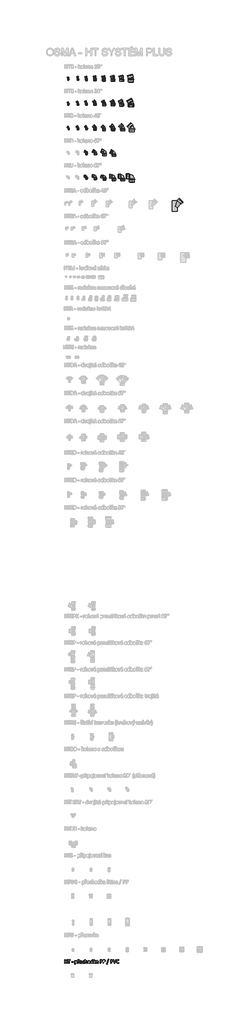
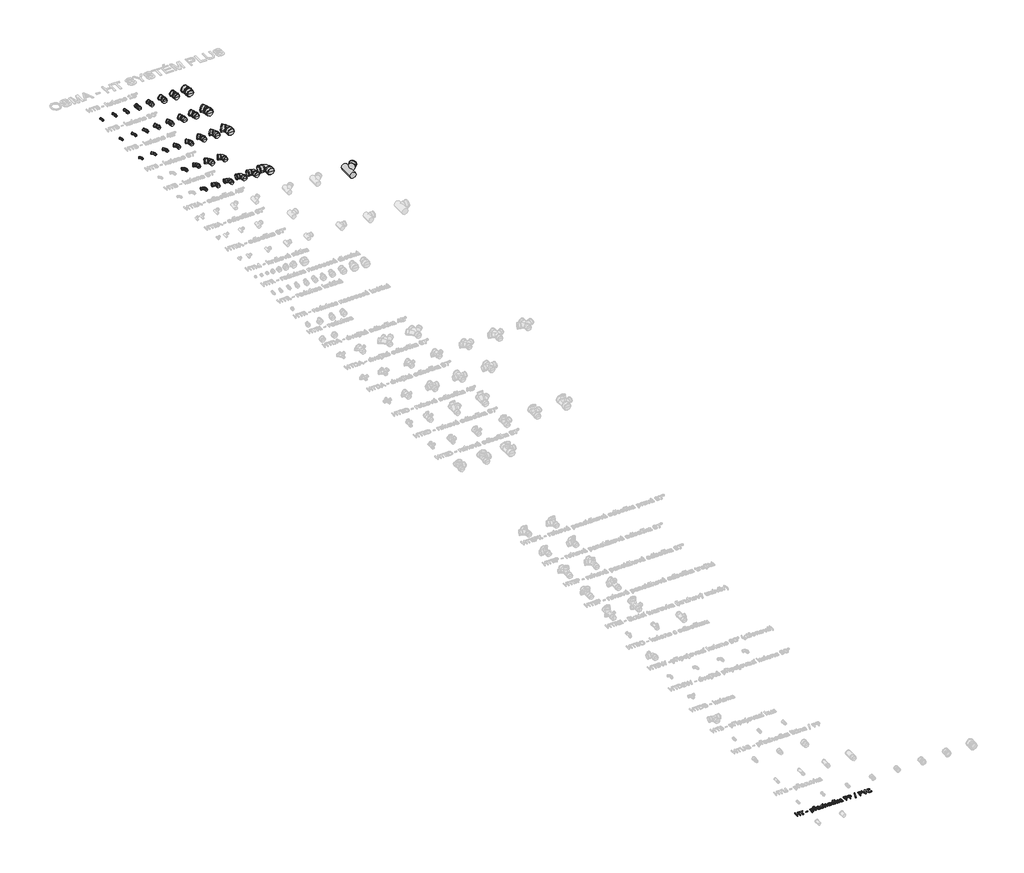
# One storey, part 2 of 26: 35 pipe fittings, 1 proxy.
"""IFC4 building model written with IfcOpenShell, lengths in millimetres."""

from ifc_helpers import new_model, si_unit, origin, origin_with_axes, place, context, project, spatial, polyline, outline, extrude, transform, mapped, element, save
from components import pipe_fitting_42979814, pipe_fitting_5d18f4c1, pipe_fitting_34a3104b, pipe_fitting_7d523068, pipe_fitting_6a555fdf, pipe_fitting_a0c841f7, pipe_fitting_a6e2fb77, pipe_fitting_8c246949, pipe_fitting_7228f4b3, pipe_fitting_5e5e72fc, pipe_fitting_70bf791d, pipe_fitting_b5d70c9b, pipe_fitting_7da3bcd4, pipe_fitting_90b3138e, pipe_fitting_d9a1dc68, pipe_fitting_e6752ab2, pipe_fitting_b959d5ee, pipe_fitting_9d65ed2c, pipe_fitting_ae09612a, pipe_fitting_d9e671e8, pipe_fitting_061adc0d, pipe_fitting_39f5aeaa, pipe_fitting_7f82ed09, pipe_fitting_ec7f6db3, pipe_fitting_69d4b52c, pipe_fitting_f9c090b8, pipe_fitting_05bbf92f, pipe_fitting_35e958b2, pipe_fitting_1962d81d, pipe_fitting_fdcfc480, pipe_fitting_d87b3533, pipe_fitting_35804287, pipe_fitting_c4cf05fe, pipe_fitting_eeb25b69

model = new_model("IFC4")

# Units and contexts
model_context = context("Model", 3, world=origin())
ifc_project = project(units=[si_unit("LENGTHUNIT", "METRE", prefix="MILLI")], contexts=[model_context])

# Site, building, storey
site = spatial("IfcSite", under=ifc_project)
building = spatial("IfcBuilding", under=site)
storey = spatial("IfcBuildingStorey", under=building, Name="Podlaží 1", Elevation=0.0)

# Proxy
placement = place(None, origin())
element("IfcBuildingElementProxy", 1, Name="120mm Arial", ObjectType="120mm Arial", at=placement, inside=storey, context=model_context, shape_type="SweptSolid", body=[
    extrude(outline(polyline([(-20465.0657483, -8501.9493003), (-20469.2817655, -8504.6815689), (-20473.1358927, -8504.9167974), (-20477.1166815, -8504.6815689), (-20479.5775327, -8504.1387341), (-20481.2784151, -8449.3305111), (-20534.5486061, -8449.3305111), (-20534.5486061, -8501.9854893), (-20538.7465288, -8504.6815689), (-20542.6549395, -8504.9167974), (-20546.5271613, -8504.6815689), (-20549.0603905, -8504.1206396), (-20550.7612729, -8387.4473409), (-20546.5271613, -8384.7150723), (-20542.6549395, -8384.4798438), (-20538.7465288, -8384.7150723), (-20536.2494886, -8385.2760016), (-20534.5486061, -8435.4339396), (-20481.2784151, -8435.4339396), (-20481.2784151, -8387.4473409), (-20477.1166815, -8384.7150723), (-20473.1358927, -8384.4798438), (-20469.2817655, -8384.7150723), (-20466.7666308, -8385.2760016), (-20465.0657483, -8501.9493003)])), origin_with_axes(), (0.0, 0.0, 1.0), 15.0),
    extrude(outline(polyline([(-20356.2092711, -8391.5366966), (-20356.390216, -8394.6670441), (-20356.9873343, -8396.8021944), (-20393.2667952, -8398.3764154), (-20393.2667952, -8501.9493003), (-20397.4647179, -8504.6815689), (-20401.3731287, -8504.9167974), (-20405.2453504, -8504.6815689), (-20407.7785796, -8504.1206396), (-20409.4794621, -8398.3764154), (-20443.3885442, -8398.3764154), (-20446.3017578, -8394.6670441), (-20446.5369862, -8391.5366966), (-20446.3017578, -8388.3339711), (-20445.686545, -8386.0902538), (-20359.3939021, -8384.4798438), (-20357.0054288, -8386.0902538), (-20356.390216, -8388.3339711), (-20356.2092711, -8391.5366966)])), origin_with_axes(), (0.0, 0.0, 1.0), 15.0),
    extrude(outline(polyline([(-20258.9332702, -8459.7167508), (-20259.7837114, -8464.2765633), (-20262.2626571, -8465.5431779), (-20301.8534105, -8465.5431779), (-20304.4047341, -8464.2403744), (-20305.2551754, -8459.7167508), (-20304.4047341, -8455.2293162), (-20301.8534105, -8453.9627016), (-20262.2626571, -8453.9627016), (-20259.1684986, -8457.0025767), (-20258.9332702, -8459.7167508)])), origin_with_axes(), (0.0, 0.0, 1.0), 15.0),
    extrude(outline(polyline([(-20119.9675546, -8459.6443728), (-20122.2836498, -8479.494033), (-20129.0871796, -8494.4400852), (-20140.2152936, -8503.9035057), (-20155.3965742, -8507.2328926), (-20162.1096316, -8506.4910184), (-20168.1531927, -8504.1387341), (-20174.0158088, -8500.1036619), (-20180.1860313, -8494.3858017), (-20180.1860313, -8536.6545402), (-20181.8688193, -8538.916352), (-20184.311576, -8539.4772813), (-20188.3285537, -8539.6582263), (-20192.2731535, -8539.4772813), (-20194.7701937, -8538.916352), (-20196.0549028, -8537.9754383), (-20196.0549028, -8419.8002966), (-20192.6712323, -8417.0499334), (-20189.3056564, -8416.9051775), (-20185.921986, -8417.0318389), (-20183.7144577, -8417.5022958), (-20182.1402367, -8430.1503473), (-20174.9567225, -8423.3106284), (-20167.9903422, -8418.4793985), (-20160.7887335, -8415.5661849), (-20153.008101, -8414.5890822), (-20137.8087259, -8418.1536976), (-20127.5672421, -8427.8885355), (-20121.7950985, -8442.2555639), (-20119.9675546, -8459.6443728)]), holes=[polyline([(-20136.1802214, -8461.4176333), (-20137.1211351, -8449.1495662), (-20140.3600495, -8438.6185705), (-20146.5302721, -8431.2541114), (-20156.156543, -8428.4856538), (-20161.8382142, -8429.336095), (-20167.5017909, -8432.0502691), (-20173.5272575, -8436.9357826), (-20180.1860313, -8444.3726197), (-20180.1860313, -8477.919812), (-20168.5874605, -8489.3736268), (-20157.0612677, -8493.3363211), (-20147.4711858, -8490.5678634), (-20140.9933568, -8483.2034043), (-20137.3563635, -8472.9076371), (-20136.1802214, -8461.4176333)])]), origin_with_axes(), (0.0, 0.0, 1.0), 15.0),
    extrude(outline(polyline([(-20060.9071254, -8377.8934479), (-20059.7490778, -8376.6087389), (-20056.4558799, -8375.3421243), (-20053.5607608, -8375.2154628), (-20049.7790115, -8375.5230692), (-20047.9695621, -8376.4096994), (-20049.3266491, -8380.2095432), (-20064.2727014, -8400.6925107), (-20065.4488435, -8401.8505583), (-20067.041159, -8402.5200546), (-20069.3572542, -8402.8819445), (-20072.7047357, -8403.0086059), (-20075.8531777, -8402.8819445), (-20078.0788004, -8402.4838656), (-20079.6168325, -8401.7600858), (-20095.6485543, -8380.2095432), (-20097.0418304, -8377.9839204), (-20095.1419085, -8375.5230692), (-20091.3782537, -8375.2154628), (-20088.2660007, -8375.3421243), (-20086.3841733, -8375.7944866), (-20084.068078, -8377.8934479), (-20072.4876017, -8394.0699258), (-20060.9071254, -8377.8934479)])), origin_with_axes(), (0.0, 0.0, 1.0), 15.0),
    extrude(outline(polyline([(-20048.1686015, -8423.8534633), (-20048.259074, -8427.1466612), (-20048.6209639, -8429.2818115), (-20052.1674847, -8430.4941426), (-20054.5016745, -8429.6617959), (-20057.414888, -8428.8656382), (-20060.9071254, -8428.4856538), (-20065.322182, -8429.480851), (-20069.8639001, -8432.7378599), (-20074.839886, -8438.745232), (-20080.5939351, -8447.9191406), (-20080.5939351, -8502.0940563), (-20084.7194798, -8504.7358524), (-20088.7364575, -8504.9167974), (-20092.6810573, -8504.7358524), (-20095.1780975, -8504.1930176), (-20096.806602, -8419.7279186), (-20093.0791362, -8417.0499334), (-20089.4240483, -8416.9051775), (-20085.8413385, -8417.0499334), (-20083.6338102, -8417.5927683), (-20082.1500616, -8431.7426627), (-20075.8893666, -8423.1658725), (-20070.3343569, -8417.9365637), (-20065.1593316, -8415.312862), (-20059.9662117, -8414.5890822), (-20057.3244156, -8414.7157437), (-20054.2121626, -8415.204295), (-20051.2808545, -8416.0185473), (-20049.4352161, -8416.9051775), (-20048.2047905, -8420.5964543), (-20048.1686015, -8423.8534633)])), origin_with_axes(), (0.0, 0.0, 1.0), 15.0),
    extrude(outline(polyline([(-19957.8408864, -8456.6044978), (-19959.6322413, -8461.7071452), (-19963.7396915, -8463.2270827), (-20018.0593631, -8463.2270827), (-20016.7022761, -8476.6170084), (-20012.196747, -8486.8223031), (-20003.9818466, -8493.3725101), (-19991.6052126, -8495.6524163), (-19981.3275399, -8494.5848412), (-19973.5107184, -8492.1782734), (-19968.1004646, -8489.7717057), (-19964.8977391, -8488.7041305), (-19962.5997383, -8491.5992496), (-19962.4730769, -8494.2410458), (-19962.5635494, -8496.1771567), (-19967.0147949, -8501.5693159), (-19973.3659624, -8504.0663561), (-19982.4132095, -8506.2557899), (-19993.378473, -8507.2328926), (-20011.0567939, -8504.3377735), (-20023.8134123, -8495.7247943), (-20031.6302338, -8481.3758604), (-20034.2720299, -8461.3452553), (-20031.5035723, -8441.8032015), (-20023.5239004, -8427.1104722), (-20010.9301324, -8417.8279967), (-19994.3917647, -8414.5890822), (-19977.74483, -8417.7194297), (-19966.4357711, -8426.151464), (-19959.9217532, -8438.5823816), (-19957.8408864, -8453.8179457), (-19957.8408864, -8456.6044978)]), holes=[polyline([(-19974.0535532, -8451.6466064), (-19975.2251717, -8441.0206147), (-19979.246673, -8432.9549939), (-19986.0185375, -8427.8659174), (-19995.4412453, -8426.1695585), (-20005.0856108, -8428.2685199), (-20012.0158021, -8433.8597186), (-20016.3403862, -8441.9841465), (-20018.0593631, -8451.6466064), (-19974.0535532, -8451.6466064)])]), origin_with_axes(), (0.0, 0.0, 1.0), 15.0),
    extrude(outline(polyline([(-19874.461457, -8488.2698627), (-19874.5519295, -8490.8030919), (-19874.8776304, -8492.6125413), (-19876.8680247, -8496.2495346), (-19880.758341, -8499.777961), (-19886.9285635, -8503.5235213), (-19894.3654006, -8506.2015065), (-19902.688868, -8507.2328926), (-19918.394889, -8504.2292066), (-19929.8487038, -8495.4533769), (-19936.8874621, -8481.3034824), (-19939.3121243, -8461.9604681), (-19936.3446272, -8440.5184924), (-19928.2201993, -8425.8438576), (-19916.0787937, -8417.3575398), (-19900.9517965, -8414.5890822), (-19893.31592, -8415.4033345), (-19886.5123902, -8417.5384848), (-19880.9754749, -8420.5783598), (-19877.465143, -8423.5277624), (-19875.9633, -8425.4638733), (-19875.2757092, -8427.0019053), (-19874.9138194, -8428.9018272), (-19874.8233469, -8431.5617178), (-19875.6375991, -8436.3748533), (-19877.609899, -8437.7500348), (-19880.7402465, -8436.3024753), (-19885.2095866, -8433.1178443), (-19891.777888, -8429.9332133), (-19900.8432296, -8428.4856538), (-19910.3654572, -8430.5846151), (-19917.3635028, -8436.8814991), (-19921.6654688, -8447.1772663), (-19923.0994575, -8461.2728773), (-19921.6157089, -8475.2780158), (-19917.2368413, -8485.3385546), (-19910.1257051, -8491.3640212), (-19900.4813397, -8493.3363211), (-19891.4521871, -8491.5087771), (-19884.7210352, -8487.4917994), (-19879.9259943, -8483.5291052), (-19876.8861192, -8481.7558448), (-19874.5881185, -8485.3204601), (-19874.461457, -8488.2698627)])), origin_with_axes(), (0.0, 0.0, 1.0), 15.0),
    extrude(outline(polyline([(-19781.8176466, -8502.0578673), (-19785.9431913, -8504.7358524), (-19789.887791, -8504.9167974), (-19793.9047687, -8504.7358524), (-19796.3475255, -8504.1930176), (-19798.0303134, -8453.7093787), (-19799.0978886, -8442.3460364), (-19802.1920471, -8434.9091992), (-19807.4575449, -8430.1322528), (-19814.930571, -8428.4856538), (-19825.913929, -8432.520726), (-19837.4039328, -8444.3726197), (-19837.4039328, -8502.0578673), (-19841.5294775, -8504.7358524), (-19845.5464552, -8504.9167974), (-19849.491055, -8504.7358524), (-19851.9880952, -8504.1749231), (-19853.6165997, -8378.1829599), (-19849.491055, -8375.3964077), (-19845.5464552, -8375.2154628), (-19841.5294775, -8375.3964077), (-19839.0867208, -8375.9573371), (-19837.8020117, -8376.8982508), (-19837.4039328, -8428.2685199), (-19824.375897, -8417.9546581), (-19811.1669162, -8414.5890822), (-19797.3427226, -8417.4118233), (-19788.277381, -8424.9572274), (-19783.3194896, -8436.0129634), (-19781.8176466, -8451.3209055), (-19781.8176466, -8502.0578673)])), origin_with_axes(), (0.0, 0.0, 1.0), 15.0),
    extrude(outline(polyline([(-19675.2772646, -8460.0062627), (-19677.9552498, -8478.9873871), (-19685.9711107, -8493.9334394), (-19699.3248475, -8503.7225607), (-19717.907893, -8507.2328926), (-19735.8214423, -8504.1387341), (-19748.5599662, -8495.1457705), (-19756.1596538, -8480.8149311), (-19758.656694, -8461.7071452), (-19756.0148978, -8442.7260207), (-19748.0533204, -8427.798063), (-19734.7538671, -8418.0632251), (-19716.1346326, -8414.5890822), (-19698.2029888, -8417.6832407), (-19685.4644649, -8426.6762044), (-19677.8285883, -8441.0070438), (-19675.2772646, -8460.0062627)]), holes=[polyline([(-19691.4899315, -8461.0919324), (-19692.7384516, -8448.5162589), (-19696.8459018, -8438.1300192), (-19704.5722508, -8431.0731665), (-19716.7498454, -8428.4856538), (-19728.3122272, -8430.8560325), (-19736.2738047, -8437.5509954), (-19740.9240897, -8447.7924791), (-19742.4440272, -8460.7300425), (-19741.1955071, -8473.3780939), (-19737.0518679, -8483.7281446), (-19729.2712354, -8490.7488084), (-19717.1117353, -8493.3363211), (-19705.5855425, -8490.9659423), (-19697.5696815, -8484.3252629), (-19692.9555855, -8474.1199682), (-19691.4899315, -8461.0919324)])]), origin_with_axes(), (0.0, 0.0, 1.0), 15.0),
    extrude(outline(polyline([(-19582.9591551, -8502.0216783), (-19586.3428256, -8504.7358524), (-19589.654118, -8504.9167974), (-19593.0920719, -8504.7358524), (-19595.3357892, -8504.2653956), (-19597.0004827, -8491.9611395), (-19610.4446919, -8503.1978204), (-19625.6983505, -8507.2328926), (-19641.1148596, -8503.6320883), (-19651.4468158, -8493.8972504), (-19657.2370539, -8479.457844), (-19659.0645978, -8461.9966571), (-19656.7846916, -8442.3641309), (-19650.0535397, -8427.4180786), (-19639.0158982, -8417.9184692), (-19623.7803341, -8414.5890822), (-19610.6256368, -8417.8279967), (-19598.8461211, -8427.3276062), (-19598.8461211, -8378.2191488), (-19597.1814276, -8376.0116206), (-19594.6843874, -8375.4506912), (-19590.8483546, -8375.2154628), (-19586.8313769, -8375.4506912), (-19584.3886202, -8376.0116206), (-19583.0677221, -8376.9344398), (-19582.9591551, -8502.0216783)]), holes=[polyline([(-19598.8461211, -8443.8297849), (-19610.4627863, -8432.412159), (-19622.1518296, -8428.4856538), (-19631.7419116, -8431.2360169), (-19638.1473625, -8438.4919091), (-19641.7300724, -8448.6972038), (-19642.851931, -8460.2595856), (-19641.9110173, -8472.4914637), (-19638.6359138, -8483.0948373), (-19632.4475968, -8490.5316745), (-19622.7670424, -8493.3363211), (-19617.0853712, -8492.5220688), (-19611.476078, -8489.8259892), (-19605.4868004, -8484.9404757), (-19598.8461211, -8477.5217331), (-19598.8461211, -8443.8297849)])]), origin_with_axes(), (0.0, 0.0, 1.0), 15.0),
    extrude(outline(polyline([(-19485.3574533, -8501.9854893), (-19489.4287145, -8504.7358524), (-19493.4275977, -8504.9167974), (-19497.5531424, -8504.7720414), (-19500.3035055, -8504.3196791), (-19502.112955, -8503.4149543), (-19503.3795696, -8501.9854893), (-19538.6276443, -8456.4235529), (-19538.6276443, -8502.0940563), (-19542.753189, -8504.7358524), (-19546.7701667, -8504.9167974), (-19550.7147664, -8504.7358524), (-19553.2118066, -8504.1749231), (-19554.8403111, -8378.1829599), (-19550.7147664, -8375.3964077), (-19546.7701667, -8375.2154628), (-19542.753189, -8375.3964077), (-19540.3104323, -8375.9573371), (-19539.0257232, -8376.8982508), (-19538.6276443, -8454.3245915), (-19506.4194446, -8420.0898085), (-19504.8090346, -8418.5879654), (-19502.7824513, -8417.5927683), (-19499.9958991, -8417.0499334), (-19496.1055829, -8416.9051775), (-19492.1247942, -8417.0499334), (-19489.5372815, -8417.5022958), (-19488.1078164, -8418.316548), (-19488.3068559, -8421.8449744), (-19490.4239117, -8424.3962981), (-19522.4149775, -8454.2160246), (-19487.6373596, -8497.6789997), (-19485.8821937, -8500.1941344), (-19485.3574533, -8501.9854893)])), origin_with_axes(), (0.0, 0.0, 1.0), 15.0),
    extrude(outline(polyline([(-19404.2941192, -8502.1302453), (-19405.090277, -8503.8130332), (-19407.2616163, -8504.64538), (-19411.314783, -8504.9167974), (-19415.4222332, -8504.64538), (-19417.647856, -8503.8130332), (-19418.3354467, -8502.1302453), (-19418.3354467, -8493.8067779), (-19430.5311358, -8503.4330488), (-19444.7895973, -8507.2328926), (-19456.750058, -8505.5139157), (-19465.8515886, -8500.5379298), (-19471.6961102, -8492.5401633), (-19473.776977, -8481.7558448), (-19470.8999524, -8469.4877777), (-19462.6488631, -8460.8386094), (-19449.4941658, -8455.6816786), (-19431.9786954, -8453.9627016), (-19420.506786, -8453.9627016), (-19420.506786, -8447.0506049), (-19421.5200777, -8438.0033577), (-19424.7770867, -8431.4531508), (-19430.5854193, -8427.5085511), (-19439.361249, -8426.1695585), (-19449.4036933, -8427.6171181), (-19457.1843258, -8430.801749), (-19462.7755245, -8433.98638), (-19466.1049115, -8435.4339396), (-19468.9638416, -8431.9055132), (-19469.1447865, -8429.2456225), (-19468.8190856, -8425.4457788), (-19467.2267701, -8422.7858881), (-19462.8840915, -8420.071714), (-19455.7910498, -8417.3937288), (-19447.0152201, -8415.38524), (-19437.4070436, -8414.5890822), (-19422.0267236, -8416.6337601), (-19411.7671453, -8422.6049432), (-19406.0673797, -8432.3578755), (-19404.2941192, -8445.9649352), (-19404.2941192, -8502.1302453)]), holes=[polyline([(-19420.506786, -8465.5431779), (-19433.3900659, -8465.5431779), (-19444.1381955, -8466.6107531), (-19451.7197886, -8469.7591951), (-19456.1529397, -8474.7532755), (-19457.5643102, -8481.4663329), (-19453.5111435, -8491.8163836), (-19442.1478011, -8495.6524163), (-19431.1463486, -8492.5944468), (-19420.506786, -8483.2395933), (-19420.506786, -8465.5431779)])]), origin_with_axes(), (0.0, 0.0, 1.0), 15.0),
    extrude(outline(polyline([(-19258.3801178, -8419.5107847), (-19261.3476149, -8435.6872625), (-19269.8520272, -8447.9734241), (-19283.4228978, -8455.8264345), (-19302.6030617, -8458.5948922), (-19316.2824993, -8458.5948922), (-19316.2824993, -8501.9493003), (-19318.0195708, -8504.1206396), (-19320.480422, -8504.6815689), (-19324.3888328, -8504.9167974), (-19328.2972435, -8504.6815689), (-19330.7942837, -8504.1206396), (-19332.4951662, -8391.3195627), (-19330.5409608, -8386.0540648), (-19326.1620932, -8384.4798438), (-19300.3231554, -8384.4798438), (-19292.8320348, -8384.8055447), (-19284.345717, -8386.1988208), (-19274.3575562, -8390.161515), (-19265.744577, -8397.3088402), (-19260.2981342, -8407.1522451), (-19258.3801178, -8419.5107847)]), holes=[polyline([(-19274.5927847, -8420.7773992), (-19277.3793368, -8408.9978835), (-19284.2733391, -8401.9591253), (-19292.7596569, -8399.0097227), (-19301.3002581, -8398.3764154), (-19316.2824993, -8398.3764154), (-19316.2824993, -8444.6983206), (-19301.662148, -8444.6983206), (-19289.4483644, -8442.9069657), (-19281.2877475, -8437.9490743), (-19276.2936671, -8430.3674812), (-19274.5927847, -8420.7773992)])]), origin_with_axes(), (0.0, 0.0, 1.0), 15.0),
    extrude(outline(polyline([(-19161.1041169, -8419.5107847), (-19164.071614, -8435.6872625), (-19172.5760263, -8447.9734241), (-19186.1468969, -8455.8264345), (-19205.3270608, -8458.5948922), (-19219.0064984, -8458.5948922), (-19219.0064984, -8501.9493003), (-19220.7435699, -8504.1206396), (-19223.2044211, -8504.6815689), (-19227.1128318, -8504.9167974), (-19231.0212426, -8504.6815689), (-19233.5182828, -8504.1206396), (-19235.2191652, -8391.3195627), (-19233.2649599, -8386.0540648), (-19228.8860923, -8384.4798438), (-19203.0471545, -8384.4798438), (-19195.5560339, -8384.8055447), (-19187.0697161, -8386.1988208), (-19177.0815553, -8390.161515), (-19168.4685761, -8397.3088402), (-19163.0221333, -8407.1522451), (-19161.1041169, -8419.5107847)]), holes=[polyline([(-19177.3167837, -8420.7773992), (-19180.1033358, -8408.9978835), (-19186.9973381, -8401.9591253), (-19195.4836559, -8399.0097227), (-19204.0242572, -8398.3764154), (-19219.0064984, -8398.3764154), (-19219.0064984, -8444.6983206), (-19204.3861471, -8444.6983206), (-19192.1723635, -8442.9069657), (-19184.0117466, -8437.9490743), (-19179.0176662, -8430.3674812), (-19177.3167837, -8420.7773992)])]), origin_with_axes(), (0.0, 0.0, 1.0), 15.0),
    extrude(outline(polyline([(-19094.5525672, -8526.7025684), (-19095.5477644, -8528.5843958), (-19097.0677019, -8529.651971), (-19099.3476082, -8530.2129003), (-19102.6227116, -8530.3938452), (-19106.4768389, -8530.0681443), (-19108.8472176, -8529.1453251), (-19109.8605093, -8527.6615766), (-19109.4986194, -8525.5807098), (-19053.4056873, -8371.9584538), (-19052.4104901, -8370.0766264), (-19050.9267416, -8368.9728623), (-19048.6649298, -8368.411933), (-19045.3355429, -8368.267177), (-19041.5356991, -8368.5928779), (-19039.2196039, -8369.4795081), (-19038.1882177, -8370.9632567), (-19038.4596351, -8373.0803125), (-19094.5525672, -8526.7025684)])), origin_with_axes(), (0.0, 0.0, 1.0), 15.0),
    extrude(outline(polyline([(-18901.7014478, -8419.5107847), (-18904.6689449, -8435.6872625), (-18913.1733571, -8447.9734241), (-18926.7442278, -8455.8264345), (-18945.9243917, -8458.5948922), (-18959.6038293, -8458.5948922), (-18959.6038293, -8501.9493003), (-18961.3409007, -8504.1206396), (-18963.801752, -8504.6815689), (-18967.7101627, -8504.9167974), (-18971.6185735, -8504.6815689), (-18974.1156137, -8504.1206396), (-18975.8164961, -8391.3195627), (-18973.8622907, -8386.0540648), (-18969.4834231, -8384.4798438), (-18943.6444854, -8384.4798438), (-18936.1533648, -8384.8055447), (-18927.667047, -8386.1988208), (-18917.6788862, -8390.161515), (-18909.0659069, -8397.3088402), (-18903.6194642, -8407.1522451), (-18901.7014478, -8419.5107847)]), holes=[polyline([(-18917.9141146, -8420.7773992), (-18920.7006667, -8408.9978835), (-18927.594669, -8401.9591253), (-18936.0809868, -8399.0097227), (-18944.6215881, -8398.3764154), (-18959.6038293, -8398.3764154), (-18959.6038293, -8444.6983206), (-18944.983478, -8444.6983206), (-18932.7696944, -8442.9069657), (-18924.6090775, -8437.9490743), (-18919.6149971, -8430.3674812), (-18917.9141146, -8420.7773992)])]), origin_with_axes(), (0.0, 0.0, 1.0), 15.0),
    extrude(outline(polyline([(-18829.4320379, -8501.5874104), (-18830.4453296, -8503.2521039), (-18832.254779, -8504.2653956), (-18835.222276, -8504.7720414), (-18839.6011436, -8504.9167974), (-18843.1838535, -8504.8625139), (-18845.8256497, -8504.6272855), (-18847.7255715, -8504.2292066), (-18889.7952706, -8390.6681609), (-18890.5733339, -8387.3930574), (-18889.7952706, -8385.4931355), (-18887.099191, -8384.6607888), (-18882.0870161, -8384.4798438), (-18877.9614714, -8384.6245998), (-18875.6091871, -8385.1312456), (-18873.5464148, -8387.6282858), (-18839.1668758, -8488.0527288), (-18805.6920615, -8387.8092308), (-18805.0406597, -8386.1445373), (-18803.7559506, -8385.1312456), (-18801.1503434, -8384.6245998), (-18796.6810034, -8384.4798438), (-18792.1573798, -8384.7150723), (-18789.8774735, -8385.583608), (-18789.4070167, -8387.4654354), (-18790.3117414, -8390.7405388), (-18829.4320379, -8501.5874104)])), origin_with_axes(), (0.0, 0.0, 1.0), 15.0),
    extrude(outline(polyline([(-18688.6206839, -8488.8850755), (-18688.7111563, -8491.5268716), (-18689.0368572, -8493.4991715), (-18689.65207, -8495.0010145), (-18690.9729681, -8496.557141), (-18694.8994734, -8499.3436931), (-18702.3363105, -8502.998781), (-18712.5596997, -8506.002467), (-18725.1715622, -8507.2328926), (-18746.4868764, -8503.2701984), (-18762.7176377, -8491.5811551), (-18773.0314994, -8472.4914637), (-18776.6323038, -8446.2906361), (-18772.723893, -8419.2393672), (-18761.740535, -8399.1001952), (-18744.8221829, -8386.5064272), (-18723.0002229, -8382.1637486), (-18712.7587392, -8383.1589458), (-18703.5124526, -8385.6740805), (-18695.9670485, -8389.1844123), (-18691.407236, -8392.4595158), (-18689.760637, -8394.3775322), (-18689.1454242, -8395.8793752), (-18688.7654398, -8397.924053), (-18688.6206839, -8400.7286997), (-18688.8197233, -8403.8228582), (-18689.3987471, -8405.9580085), (-18695.3337412, -8405.831347), (-18701.5401528, -8401.8505583), (-18710.7502503, -8397.8697696), (-18723.7601917, -8396.0603201), (-18738.7786219, -8399.3354236), (-18750.3410037, -8408.979789), (-18757.7778408, -8424.5048651), (-18760.4196369, -8445.4582894), (-18757.8864077, -8466.1222018), (-18750.6486101, -8481.1225375), (-18739.0681338, -8490.2421626), (-18723.5068687, -8493.3363211), (-18710.6778723, -8491.5449661), (-18701.3411133, -8487.5460829), (-18695.0080403, -8483.5471997), (-18691.1177241, -8481.7558448), (-18688.7654398, -8485.3385546), (-18688.6206839, -8488.8850755)])), origin_with_axes(), (0.0, 0.0, 1.0), 15.0),
])

# Pipe fittings
pipe_fitting_shape = pipe_fitting_42979814(model_context)
element("IfcPipeFitting", 2, ObjectType="pf_HTEA : pf_HTEA", at=placement, inside=storey, context=model_context, shape_type="MappedRepresentation", body=[
    mapped(pipe_fitting_shape, transform((-16776.3384973, 17411.1568635, 0.0), x_axis=(0.0, 1.0, 0.0), y_axis=(-1.0, 0.0, 0.0), z_axis=(0.0, 0.0, 1.0))),
])
pipe_fitting_2_shape = pipe_fitting_5d18f4c1(model_context)
element("IfcPipeFitting", 3, ObjectType="pf_HTB : pf_HTB", at=placement, inside=storey, context=model_context, shape_type="MappedRepresentation", body=[
    mapped(pipe_fitting_2_shape, transform((-19796.3384973, 18444.6568635, 0.0), x_axis=(0.0, 1.0, 0.0), y_axis=(-1.0, 0.0, 0.0), z_axis=(0.0, 0.0, 1.0))),
])
pipe_fitting_3_shape = pipe_fitting_34a3104b(model_context)
element("IfcPipeFitting", 4, ObjectType="pf_HTB : pf_HTB", at=placement, inside=storey, context=model_context, shape_type="MappedRepresentation", body=[
    mapped(pipe_fitting_3_shape, transform((-19496.3384973, 18449.6568635, 0.0), x_axis=(0.0, 1.0, 0.0), y_axis=(-1.0, 0.0, 0.0), z_axis=(0.0, 0.0, 1.0))),
])
pipe_fitting_4_shape = pipe_fitting_7d523068(model_context)
element("IfcPipeFitting", 5, ObjectType="pf_HTB : pf_HTB", at=placement, inside=storey, context=model_context, shape_type="MappedRepresentation", body=[
    mapped(pipe_fitting_4_shape, transform((-19181.3384973, 18434.6568635, 0.0), x_axis=(0.0, 1.0, 0.0), y_axis=(-1.0, 0.0, 0.0), z_axis=(0.0, 0.0, 1.0))),
])
pipe_fitting_5_shape = pipe_fitting_6a555fdf(model_context)
element("IfcPipeFitting", 6, ObjectType="pf_HTB : pf_HTB", at=placement, inside=storey, context=model_context, shape_type="MappedRepresentation", body=[
    mapped(pipe_fitting_5_shape, transform((-18866.3384973, 18442.6568635, 0.0), x_axis=(0.0, 1.0, 0.0), y_axis=(-1.0, 0.0, 0.0), z_axis=(0.0, 0.0, 1.0))),
])
pipe_fitting_6_shape = pipe_fitting_a0c841f7(model_context)
element("IfcPipeFitting", 7, ObjectType="pf_HTB : pf_HTB", at=placement, inside=storey, context=model_context, shape_type="MappedRepresentation", body=[
    mapped(pipe_fitting_6_shape, transform((-18566.3384973, 18444.6568635, 0.0), x_axis=(0.0, 1.0, 0.0), y_axis=(-1.0, 0.0, 0.0), z_axis=(0.0, 0.0, 1.0))),
])
pipe_fitting_7_shape = pipe_fitting_a6e2fb77(model_context)
element("IfcPipeFitting", 8, ObjectType="pf_HTB : pf_HTB", at=placement, inside=storey, context=model_context, shape_type="MappedRepresentation", body=[
    mapped(pipe_fitting_7_shape, transform((-18246.3384973, 18442.1568635, 0.0), x_axis=(0.0, 1.0, 0.0), y_axis=(-1.0, 0.0, 0.0), z_axis=(0.0, 0.0, 1.0))),
])
pipe_fitting_8_shape = pipe_fitting_8c246949(model_context)
element("IfcPipeFitting", 9, ObjectType="pf_HTB : pf_HTB", at=placement, inside=storey, context=model_context, shape_type="MappedRepresentation", body=[
    mapped(pipe_fitting_8_shape, transform((-19796.3384973, 19274.6568635, 0.0), x_axis=(0.0, 1.0, 0.0), y_axis=(-1.0, 0.0, 0.0), z_axis=(0.0, 0.0, 1.0))),
])
pipe_fitting_9_shape = pipe_fitting_7228f4b3(model_context)
element("IfcPipeFitting", 10, ObjectType="pf_HTB : pf_HTB", at=placement, inside=storey, context=model_context, shape_type="MappedRepresentation", body=[
    mapped(pipe_fitting_9_shape, transform((-19496.3384973, 19279.6568635, 0.0), x_axis=(0.0, 1.0, 0.0), y_axis=(-1.0, 0.0, 0.0), z_axis=(0.0, 0.0, 1.0))),
])
pipe_fitting_10_shape = pipe_fitting_5e5e72fc(model_context)
element("IfcPipeFitting", 11, ObjectType="pf_HTB : pf_HTB", at=placement, inside=storey, context=model_context, shape_type="MappedRepresentation", body=[
    mapped(pipe_fitting_10_shape, transform((-20411.3384973, 20104.6568635, 0.0), x_axis=(0.0, 1.0, 0.0), y_axis=(-1.0, 0.0, 0.0), z_axis=(0.0, 0.0, 1.0))),
])
pipe_fitting_11_shape = pipe_fitting_70bf791d(model_context)
element("IfcPipeFitting", 12, ObjectType="pf_HTB : pf_HTB", at=placement, inside=storey, context=model_context, shape_type="MappedRepresentation", body=[
    mapped(pipe_fitting_11_shape, transform((-20086.3384973, 20114.6568635, 0.0), x_axis=(0.0, 1.0, 0.0), y_axis=(-1.0, 0.0, 0.0), z_axis=(0.0, 0.0, 1.0))),
])
pipe_fitting_12_shape = pipe_fitting_b5d70c9b(model_context)
element("IfcPipeFitting", 13, ObjectType="pf_HTB : pf_HTB", at=placement, inside=storey, context=model_context, shape_type="MappedRepresentation", body=[
    mapped(pipe_fitting_12_shape, transform((-19796.3384973, 20114.6568635, 0.0), x_axis=(0.0, 1.0, 0.0), y_axis=(-1.0, 0.0, 0.0), z_axis=(0.0, 0.0, 1.0))),
])
pipe_fitting_13_shape = pipe_fitting_7da3bcd4(model_context)
element("IfcPipeFitting", 14, ObjectType="pf_HTB : pf_HTB", at=placement, inside=storey, context=model_context, shape_type="MappedRepresentation", body=[
    mapped(pipe_fitting_13_shape, transform((-19506.3384973, 20119.6568635, 0.0), x_axis=(0.0, 1.0, 0.0), y_axis=(-1.0, 0.0, 0.0), z_axis=(0.0, 0.0, 1.0))),
])
pipe_fitting_14_shape = pipe_fitting_90b3138e(model_context)
element("IfcPipeFitting", 15, ObjectType="pf_HTB : pf_HTB", at=placement, inside=storey, context=model_context, shape_type="MappedRepresentation", body=[
    mapped(pipe_fitting_14_shape, transform((-19201.3384973, 20104.6568635, 0.0), x_axis=(0.0, 1.0, 0.0), y_axis=(-1.0, 0.0, 0.0), z_axis=(0.0, 0.0, 1.0))),
])
pipe_fitting_15_shape = pipe_fitting_d9a1dc68(model_context)
element("IfcPipeFitting", 16, ObjectType="pf_HTB : pf_HTB", at=placement, inside=storey, context=model_context, shape_type="MappedRepresentation", body=[
    mapped(pipe_fitting_15_shape, transform((-18886.3384973, 20117.6568635, 0.0), x_axis=(0.0, 1.0, 0.0), y_axis=(-1.0, 0.0, 0.0), z_axis=(0.0, 0.0, 1.0))),
])
pipe_fitting_16_shape = pipe_fitting_e6752ab2(model_context)
element("IfcPipeFitting", 17, ObjectType="pf_HTB : pf_HTB", at=placement, inside=storey, context=model_context, shape_type="MappedRepresentation", body=[
    mapped(pipe_fitting_16_shape, transform((-18566.3384973, 20119.6568635, 0.0), x_axis=(0.0, 1.0, 0.0), y_axis=(-1.0, 0.0, 0.0), z_axis=(0.0, 0.0, 1.0))),
])
pipe_fitting_17_shape = pipe_fitting_b959d5ee(model_context)
element("IfcPipeFitting", 18, ObjectType="pf_HTB : pf_HTB", at=placement, inside=storey, context=model_context, shape_type="MappedRepresentation", body=[
    mapped(pipe_fitting_17_shape, transform((-18246.3384973, 20117.1568635, 0.0), x_axis=(0.0, 1.0, 0.0), y_axis=(-1.0, 0.0, 0.0), z_axis=(0.0, 0.0, 1.0))),
])
pipe_fitting_18_shape = pipe_fitting_9d65ed2c(model_context)
element("IfcPipeFitting", 19, ObjectType="pf_HTB : pf_HTB", at=placement, inside=storey, context=model_context, shape_type="MappedRepresentation", body=[
    mapped(pipe_fitting_18_shape, transform((-20421.3384973, 20939.6568635, 0.0), x_axis=(0.0, 1.0, 0.0), y_axis=(-1.0, 0.0, 0.0), z_axis=(0.0, 0.0, 1.0))),
])
pipe_fitting_19_shape = pipe_fitting_ae09612a(model_context)
element("IfcPipeFitting", 20, ObjectType="pf_HTB : pf_HTB", at=placement, inside=storey, context=model_context, shape_type="MappedRepresentation", body=[
    mapped(pipe_fitting_19_shape, transform((-20096.3384973, 20954.6568635, 0.0), x_axis=(0.0, 1.0, 0.0), y_axis=(-1.0, 0.0, 0.0), z_axis=(0.0, 0.0, 1.0))),
])
pipe_fitting_20_shape = pipe_fitting_d9e671e8(model_context)
element("IfcPipeFitting", 21, ObjectType="pf_HTB : pf_HTB", at=placement, inside=storey, context=model_context, shape_type="MappedRepresentation", body=[
    mapped(pipe_fitting_20_shape, transform((-19806.3384973, 20959.6568635, 0.0), x_axis=(0.0, 1.0, 0.0), y_axis=(-1.0, 0.0, 0.0), z_axis=(0.0, 0.0, 1.0))),
])
pipe_fitting_21_shape = pipe_fitting_061adc0d(model_context)
element("IfcPipeFitting", 22, ObjectType="pf_HTB : pf_HTB", at=placement, inside=storey, context=model_context, shape_type="MappedRepresentation", body=[
    mapped(pipe_fitting_21_shape, transform((-19511.3384973, 20959.6568635, 0.0), x_axis=(0.0, 1.0, 0.0), y_axis=(-1.0, 0.0, 0.0), z_axis=(0.0, 0.0, 1.0))),
])
pipe_fitting_22_shape = pipe_fitting_39f5aeaa(model_context)
element("IfcPipeFitting", 23, ObjectType="pf_HTB : pf_HTB", at=placement, inside=storey, context=model_context, shape_type="MappedRepresentation", body=[
    mapped(pipe_fitting_22_shape, transform((-19196.3384973, 20949.6568635, 0.0), x_axis=(0.0, 1.0, 0.0), y_axis=(-1.0, 0.0, 0.0), z_axis=(0.0, 0.0, 1.0))),
])
pipe_fitting_23_shape = pipe_fitting_7f82ed09(model_context)
element("IfcPipeFitting", 24, ObjectType="pf_HTB : pf_HTB", at=placement, inside=storey, context=model_context, shape_type="MappedRepresentation", body=[
    mapped(pipe_fitting_23_shape, transform((-18886.3384973, 20957.6568635, 0.0), x_axis=(0.0, 1.0, 0.0), y_axis=(-1.0, 0.0, 0.0), z_axis=(0.0, 0.0, 1.0))),
])
pipe_fitting_24_shape = pipe_fitting_ec7f6db3(model_context)
element("IfcPipeFitting", 25, ObjectType="pf_HTB : pf_HTB", at=placement, inside=storey, context=model_context, shape_type="MappedRepresentation", body=[
    mapped(pipe_fitting_24_shape, transform((-18596.3384973, 20959.6568635, 0.0), x_axis=(0.0, 1.0, 0.0), y_axis=(-1.0, 0.0, 0.0), z_axis=(0.0, 0.0, 1.0))),
])
pipe_fitting_25_shape = pipe_fitting_69d4b52c(model_context)
element("IfcPipeFitting", 26, ObjectType="pf_HTB : pf_HTB", at=placement, inside=storey, context=model_context, shape_type="MappedRepresentation", body=[
    mapped(pipe_fitting_25_shape, transform((-18276.3384973, 20957.1568635, 0.0), x_axis=(0.0, 1.0, 0.0), y_axis=(-1.0, 0.0, 0.0), z_axis=(0.0, 0.0, 1.0))),
])
pipe_fitting_26_shape = pipe_fitting_f9c090b8(model_context)
element("IfcPipeFitting", 27, ObjectType="pf_HTB : pf_HTB", at=placement, inside=storey, context=model_context, shape_type="MappedRepresentation", body=[
    mapped(pipe_fitting_26_shape, transform((-20421.3384973, 21789.6568635, 0.0), x_axis=(0.0, 1.0, 0.0), y_axis=(-1.0, 0.0, 0.0), z_axis=(0.0, 0.0, 1.0))),
])
pipe_fitting_27_shape = pipe_fitting_05bbf92f(model_context)
element("IfcPipeFitting", 28, ObjectType="pf_HTB : pf_HTB", at=placement, inside=storey, context=model_context, shape_type="MappedRepresentation", body=[
    mapped(pipe_fitting_27_shape, transform((-20096.3384973, 21799.6568635, 0.0), x_axis=(0.0, 1.0, 0.0), y_axis=(-1.0, 0.0, 0.0), z_axis=(0.0, 0.0, 1.0))),
])
pipe_fitting_28_shape = pipe_fitting_35e958b2(model_context)
element("IfcPipeFitting", 29, ObjectType="pf_HTB : pf_HTB", at=placement, inside=storey, context=model_context, shape_type="MappedRepresentation", body=[
    mapped(pipe_fitting_28_shape, transform((-19806.3384973, 21799.6568635, 0.0), x_axis=(0.0, 1.0, 0.0), y_axis=(-1.0, 0.0, 0.0), z_axis=(0.0, 0.0, 1.0))),
])
pipe_fitting_29_shape = pipe_fitting_1962d81d(model_context)
element("IfcPipeFitting", 30, ObjectType="pf_HTB : pf_HTB", at=placement, inside=storey, context=model_context, shape_type="MappedRepresentation", body=[
    mapped(pipe_fitting_29_shape, transform((-19511.3384973, 21804.6568635, 0.0), x_axis=(0.0, 1.0, 0.0), y_axis=(-1.0, 0.0, 0.0), z_axis=(0.0, 0.0, 1.0))),
])
pipe_fitting_30_shape = pipe_fitting_fdcfc480(model_context)
element("IfcPipeFitting", 31, ObjectType="pf_HTB : pf_HTB", at=placement, inside=storey, context=model_context, shape_type="MappedRepresentation", body=[
    mapped(pipe_fitting_30_shape, transform((-19206.3384973, 21794.6568635, 0.0), x_axis=(0.0, 1.0, 0.0), y_axis=(-1.0, 0.0, 0.0), z_axis=(0.0, 0.0, 1.0))),
])
pipe_fitting_31_shape = pipe_fitting_d87b3533(model_context)
element("IfcPipeFitting", 32, ObjectType="pf_HTB : pf_HTB", at=placement, inside=storey, context=model_context, shape_type="MappedRepresentation", body=[
    mapped(pipe_fitting_31_shape, transform((-18896.3384973, 21797.6568635, 0.0), x_axis=(0.0, 1.0, 0.0), y_axis=(-1.0, 0.0, 0.0), z_axis=(0.0, 0.0, 1.0))),
])
pipe_fitting_32_shape = pipe_fitting_35804287(model_context)
element("IfcPipeFitting", 33, ObjectType="pf_HTB : pf_HTB", at=placement, inside=storey, context=model_context, shape_type="MappedRepresentation", body=[
    mapped(pipe_fitting_32_shape, transform((-18596.3384973, 21799.6568635, 0.0), x_axis=(0.0, 1.0, 0.0), y_axis=(-1.0, 0.0, 0.0), z_axis=(0.0, 0.0, 1.0))),
])
pipe_fitting_33_shape = pipe_fitting_c4cf05fe(model_context)
element("IfcPipeFitting", 34, ObjectType="pf_HTB : pf_HTB", at=placement, inside=storey, context=model_context, shape_type="MappedRepresentation", body=[
    mapped(pipe_fitting_33_shape, transform((-18281.3384973, 21797.1568635, 0.0), x_axis=(0.0, 1.0, 0.0), y_axis=(-1.0, 0.0, 0.0), z_axis=(0.0, 0.0, 1.0))),
])
pipe_fitting_34_shape = pipe_fitting_eeb25b69(model_context)
element("IfcPipeFitting", 35, ObjectType="pf_HTB : pf_HTB", at=placement, inside=storey, context=model_context, shape_type="MappedRepresentation", body=[
    mapped(pipe_fitting_34_shape, transform((-19181.3384973, 19274.6568635, 0.0), x_axis=(0.0, 1.0, 0.0), y_axis=(-1.0, 0.0, 0.0), z_axis=(0.0, 0.0, 1.0))),
])
element("IfcPipeFitting", 36, ObjectType="pf_HTB : pf_HTB", at=placement, inside=storey, context=model_context, shape_type="MappedRepresentation", body=[
    mapped(pipe_fitting_34_shape, transform((-18866.3384973, 19252.6568635, 0.0), x_axis=(0.0, 1.0, 0.0), y_axis=(-1.0, 0.0, 0.0), z_axis=(0.0, 0.0, 1.0))),
])

save(model, "model.ifc")
